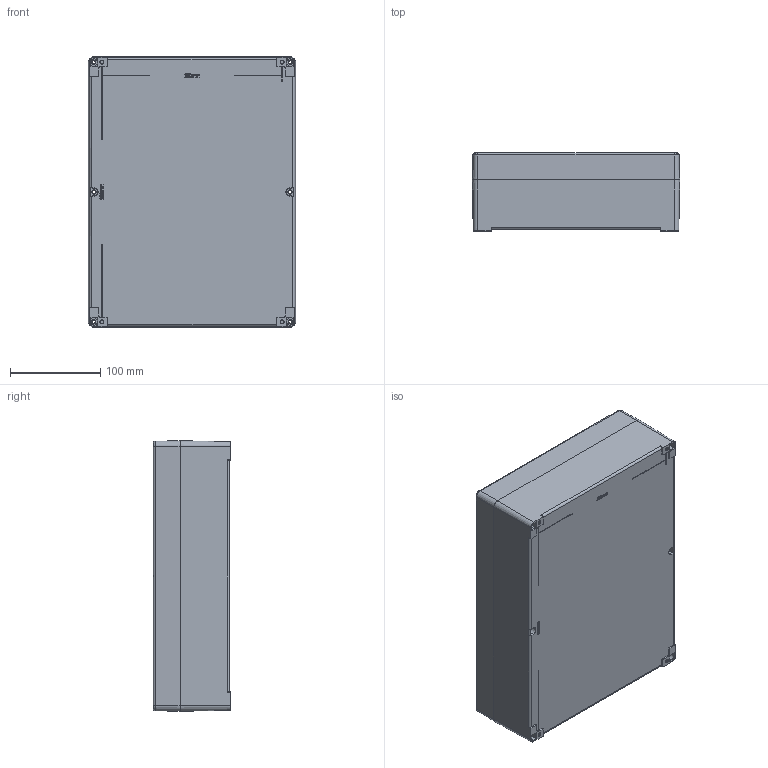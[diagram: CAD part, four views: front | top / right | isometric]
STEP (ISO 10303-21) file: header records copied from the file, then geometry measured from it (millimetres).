
FILE_DESCRIPTION (( 'STEP AP214' ), '1' );
FILE_NAME ('ZP 17 asm.STEP', '2014-10-27T10:22:51', ( '' ), ( '' ), 'SwSTEP 2.0', 'SolidWorks 2014', '' );
FILE_SCHEMA (( 'AUTOMOTIVE_DESIGN' ));
Length unit declared in the file: millimetre
Products named in the file (3): ZP 17 asm; ZP 17 Base; ZP 17 lid
Assembly tree (2 placements, depth 2):
  ZP 17 asm
    ZP 17 Base
    ZP 17 lid
Bounding box: 230 x 86.5 x 300 mm (x, y, z)
Volume: 622474.5 mm3; surface area: 481554.2 mm2
Topology: 2 solids, 2 shells, 1021 faces, 2767 edges, 1766 vertices
Faces by surface type: plane 546, cone 244, cylinder 121, bspline 100, torus 10
Entity records: 38029 total; most frequent: CARTESIAN_POINT 12677, ORIENTED_EDGE 5486, DIRECTION 4953, EDGE_CURVE 2743, VERTEX_POINT 1766, LINE 1757, VECTOR 1757, AXIS2_PLACEMENT_3D 1598
